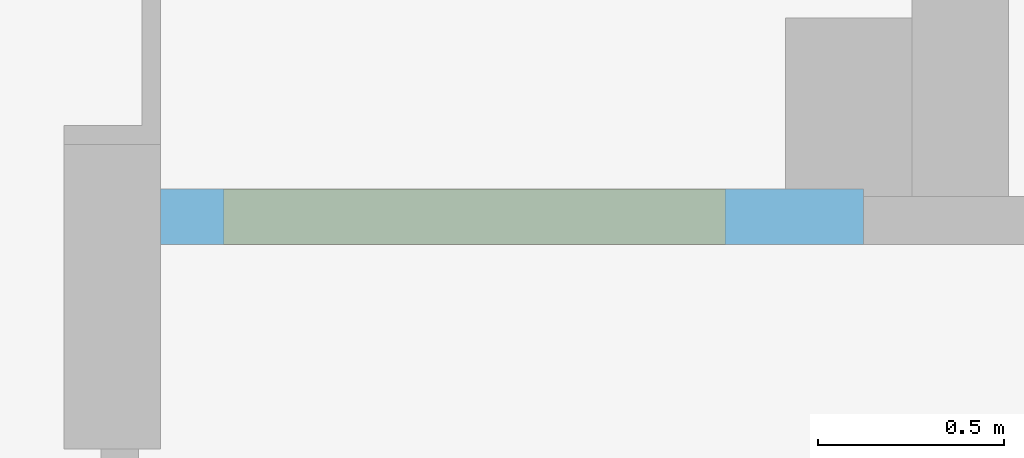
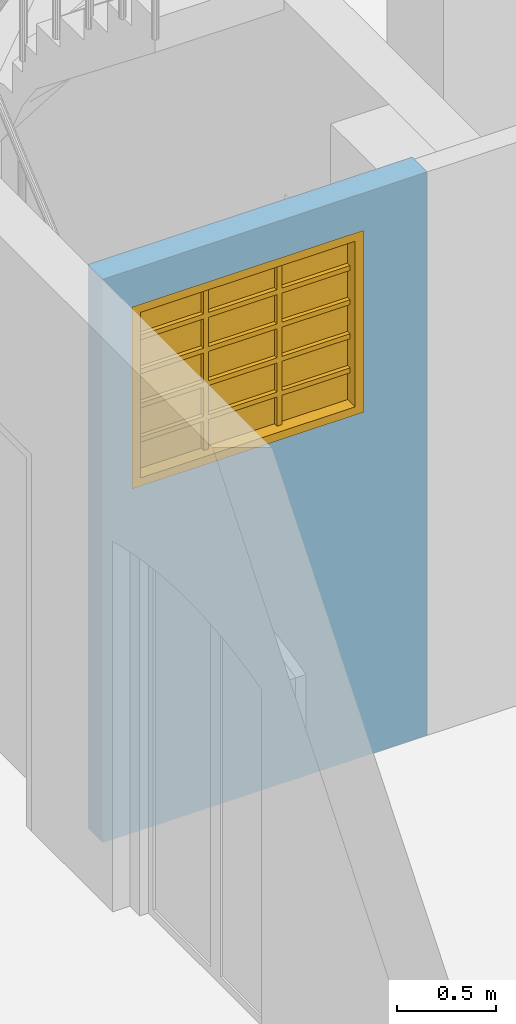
"""IFC4 building model written with IfcOpenShell, lengths in metres."""

from ifc_helpers import new_model, entity, si_unit, converted_unit, derived_unit, frame, frame_2d, origin, origin_with_axes, place, context, subcontext, project, spatial, polyline, rectangle, outline, extrude, closed_shell, open_shell, surface_model, source, transform, mapped, material, layer, layer_set, layer_usage, element, fill, save


model = new_model("IFC4")

# Units and contexts
model_context = context("Model", 3, precision=1e-05, world=origin())
body_context = subcontext(model_context, "Body", "Model", "MODEL_VIEW")
ifc_project = project(units=[si_unit("LENGTHUNIT", "METRE"), si_unit("AREAUNIT", "SQUARE_METRE"), si_unit("VOLUMEUNIT", "CUBIC_METRE"), si_unit("MASSUNIT", "GRAM", prefix="KILO"), converted_unit("PLANEANGLEUNIT", "DEGREE", entity("IfcPlaneAngleMeasure", 0.0174532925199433), si_unit("PLANEANGLEUNIT", "RADIAN"), dimensions=[0, 0, 0, 0, 0, 0, 0]), derived_unit("THERMALTRANSMITTANCEUNIT", [(si_unit("POWERUNIT", "WATT"), 1), (si_unit("THERMODYNAMICTEMPERATUREUNIT", "KELVIN"), -1), (si_unit("LENGTHUNIT", "METRE"), -2)]), derived_unit("VOLUMETRICFLOWRATEUNIT", [(si_unit("LENGTHUNIT", "METRE"), 3), (converted_unit("TIMEUNIT", "hour", entity("IfcTimeMeasure", 3600.0), si_unit("TIMEUNIT", "SECOND"), dimensions=[0, 0, 1, 0, 0, 0, 0]), -1), (si_unit("LENGTHUNIT", "METRE"), -1)])], contexts=[model_context])

# Building, storeys
building_placement = place(None, origin())
building = spatial("IfcBuilding", under=ifc_project, at=building_placement, Name="Bestandsgebäude A - Sporthalle / Wohnhaus (TB 100-499)   ANPASSEN !!!", CompositionType="ELEMENT")
storey_1_placement = place(building_placement, origin())
storey_1 = spatial("IfcBuildingStorey", under=building, at=storey_1_placement, Name="Geb. A Erdgeschoss (TB 200-249)", CompositionType="ELEMENT", Elevation=0.0)
storey_2_placement = place(storey_1_placement, origin())
storey_2 = spatial("IfcBuildingStorey", under=storey_1, at=storey_2_placement, Name="Architektur (TB 200-209)", CompositionType="PARTIAL")

# Wall, opening, window
ifc_material = material(Name="masonry")
ifc_layer = layer(ifc_material, 0.15)
ifc_layer_set = layer_set([ifc_layer])
ifc_layer_usage = layer_usage(ifc_layer_set, "AXIS2", "POSITIVE", 0.0)
wall_placement = place(storey_2_placement, frame((-5.21999999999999, 4.36, 0.0)))
wall = element("IfcWall", 1, at=wall_placement, inside=storey_2, material=ifc_layer_usage, Name="masonry load-bearing", PredefinedType="USERDEFINED", context=body_context, shape_type="SweptSolid", body=[
    extrude(rectangle(XDim=1.89, YDim=0.15, at=frame_2d((0.945, 0.075), x_axis=(1.0, 0.0))), origin_with_axes(), (0.0, 0.0, 1.0), 3.47),
])
opening_placement = place(wall_placement, frame((1.51956840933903, 0.15, 2.12), z_axis=(0.0, -1.0, 0.0), x_axis=(0.0, 0.0, 1.0)))
opening = element("IfcOpeningElement", 2, at=opening_placement, cuts=wall, Name="Window opening", PredefinedType="OPENING", context=body_context, shape_type="SweptSolid", body=[
    extrude(outline(polyline([(1.12, 1.35), (1.12, 0.0), (0.0, 0.0), (0.0, 1.35), (1.12, 1.35)])), origin_with_axes(), (0.0, 0.0, 1.0), 0.15),
])
shared_shape = source(origin_with_axes(), body_context, "Body", "SurfaceModel", [
    surface_model("IfcShellBasedSurfaceModel", [(1.35, 0.0, 1.12), (1.35, 0.0, 0.0), (1.3, 0.0, 0.0), (1.3, 0.0, 1.12), (1.35, 0.15, 0.0), (1.35, 0.15, 1.12), (1.3, 0.15, 1.12), (1.3, 0.15, 0.0)], [closed_shell([[[0, 1, 2, 3]], [[4, 5, 6, 7]], [[1, 0, 5, 4]], [[2, 1, 4, 7]], [[3, 2, 7, 6]], [[0, 3, 6, 5]]], orient=[[False], [False], [False], [False], [False], [False]])]),
    surface_model("IfcShellBasedSurfaceModel", [(0.05, 0.0, 1.12), (0.05, 0.0, 0.0), (0.0, 0.0, 0.0), (0.0, 0.0, 1.12), (0.05, 0.15, 0.0), (0.05, 0.15, 1.12), (0.0, 0.15, 1.12), (0.0, 0.15, 0.0)], [closed_shell([[[0, 1, 2, 3]], [[4, 5, 6, 7]], [[1, 0, 5, 4]], [[2, 1, 4, 7]], [[3, 2, 7, 6]], [[0, 3, 6, 5]]], orient=[[False], [False], [False], [False], [False], [False]])]),
    surface_model("IfcShellBasedSurfaceModel", [(1.3, 0.0, 0.05), (1.3, 0.0, 0.0), (0.05, 0.0, 0.0), (0.05, 0.0, 0.05), (1.3, 0.15, 0.0), (1.3, 0.15, 0.05), (0.05, 0.15, 0.05), (0.05, 0.15, 0.0)], [closed_shell([[[0, 1, 2, 3]], [[4, 5, 6, 7]], [[1, 0, 5, 4]], [[2, 1, 4, 7]], [[3, 2, 7, 6]], [[0, 3, 6, 5]]], orient=[[False], [False], [False], [False], [False], [False]])]),
    surface_model("IfcShellBasedSurfaceModel", [(1.3, 0.0, 1.12), (1.3, 0.0, 1.07), (0.05, 0.0, 1.07), (0.05, 0.0, 1.12), (1.3, 0.15, 1.07), (1.3, 0.15, 1.12), (0.05, 0.15, 1.12), (0.05, 0.15, 1.07)], [closed_shell([[[0, 1, 2, 3]], [[4, 5, 6, 7]], [[1, 0, 5, 4]], [[2, 1, 4, 7]], [[3, 2, 7, 6]], [[0, 3, 6, 5]]], orient=[[False], [False], [False], [False], [False], [False]])]),
    surface_model("IfcShellBasedSurfaceModel", [(0.903333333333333, 0.0499999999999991, 1.07), (0.903333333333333, 0.0499999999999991, 0.05), (0.873333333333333, 0.0499999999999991, 0.05), (0.873333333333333, 0.0499999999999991, 1.07), (0.903333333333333, 0.1, 0.05), (0.903333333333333, 0.1, 1.07), (0.873333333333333, 0.1, 1.07), (0.873333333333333, 0.1, 0.05)], [closed_shell([[[0, 1, 2, 3]], [[4, 5, 6, 7]], [[1, 0, 5, 4]], [[2, 1, 4, 7]], [[3, 2, 7, 6]], [[0, 3, 6, 5]]], orient=[[False], [False], [False], [False], [False], [False]])]),
    surface_model("IfcShellBasedSurfaceModel", [(0.476666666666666, 0.0499999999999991, 1.07), (0.476666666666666, 0.0499999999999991, 0.05), (0.446666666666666, 0.0499999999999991, 0.05), (0.446666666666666, 0.0499999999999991, 1.07), (0.476666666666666, 0.1, 0.05), (0.476666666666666, 0.1, 1.07), (0.446666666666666, 0.1, 1.07), (0.446666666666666, 0.1, 0.05)], [closed_shell([[[0, 1, 2, 3]], [[4, 5, 6, 7]], [[1, 0, 5, 4]], [[2, 1, 4, 7]], [[3, 2, 7, 6]], [[0, 3, 6, 5]]], orient=[[False], [False], [False], [False], [False], [False]])]),
    surface_model("IfcShellBasedSurfaceModel", [(1.3, 0.0499999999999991, 0.26), (1.3, 0.0499999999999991, 0.23), (0.903333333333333, 0.0499999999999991, 0.23), (0.903333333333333, 0.0499999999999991, 0.26), (1.3, 0.1, 0.23), (1.3, 0.1, 0.26), (0.903333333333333, 0.1, 0.26), (0.903333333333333, 0.1, 0.23)], [closed_shell([[[0, 1, 2, 3]], [[4, 5, 6, 7]], [[1, 0, 5, 4]], [[2, 1, 4, 7]], [[3, 2, 7, 6]], [[0, 3, 6, 5]]], orient=[[False], [False], [False], [False], [False], [False]])]),
    surface_model("IfcShellBasedSurfaceModel", [(1.3, 0.0499999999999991, 0.47), (1.3, 0.0499999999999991, 0.44), (0.903333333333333, 0.0499999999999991, 0.44), (0.903333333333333, 0.0499999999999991, 0.47), (1.3, 0.1, 0.44), (1.3, 0.1, 0.47), (0.903333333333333, 0.1, 0.47), (0.903333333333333, 0.1, 0.44)], [closed_shell([[[0, 1, 2, 3]], [[4, 5, 6, 7]], [[1, 0, 5, 4]], [[2, 1, 4, 7]], [[3, 2, 7, 6]], [[0, 3, 6, 5]]], orient=[[False], [False], [False], [False], [False], [False]])]),
    surface_model("IfcShellBasedSurfaceModel", [(1.3, 0.0499999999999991, 0.68), (1.3, 0.0499999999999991, 0.65), (0.903333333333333, 0.0499999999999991, 0.65), (0.903333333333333, 0.0499999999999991, 0.68), (1.3, 0.1, 0.65), (1.3, 0.1, 0.68), (0.903333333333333, 0.1, 0.68), (0.903333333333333, 0.1, 0.65)], [closed_shell([[[0, 1, 2, 3]], [[4, 5, 6, 7]], [[1, 0, 5, 4]], [[2, 1, 4, 7]], [[3, 2, 7, 6]], [[0, 3, 6, 5]]], orient=[[False], [False], [False], [False], [False], [False]])]),
    surface_model("IfcShellBasedSurfaceModel", [(1.3, 0.0499999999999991, 0.89), (1.3, 0.0499999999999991, 0.86), (0.903333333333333, 0.0499999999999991, 0.86), (0.903333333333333, 0.0499999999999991, 0.89), (1.3, 0.1, 0.86), (1.3, 0.1, 0.89), (0.903333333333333, 0.1, 0.89), (0.903333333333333, 0.1, 0.86)], [closed_shell([[[0, 1, 2, 3]], [[4, 5, 6, 7]], [[1, 0, 5, 4]], [[2, 1, 4, 7]], [[3, 2, 7, 6]], [[0, 3, 6, 5]]], orient=[[False], [False], [False], [False], [False], [False]])]),
    surface_model("IfcShellBasedSurfaceModel", [(0.873333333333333, 0.0499999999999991, 0.26), (0.873333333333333, 0.0499999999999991, 0.23), (0.476666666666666, 0.0499999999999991, 0.23), (0.476666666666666, 0.0499999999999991, 0.26), (0.873333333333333, 0.1, 0.23), (0.873333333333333, 0.1, 0.26), (0.476666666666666, 0.1, 0.26), (0.476666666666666, 0.1, 0.23)], [closed_shell([[[0, 1, 2, 3]], [[4, 5, 6, 7]], [[1, 0, 5, 4]], [[2, 1, 4, 7]], [[3, 2, 7, 6]], [[0, 3, 6, 5]]], orient=[[False], [False], [False], [False], [False], [False]])]),
    surface_model("IfcShellBasedSurfaceModel", [(0.873333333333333, 0.0499999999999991, 0.47), (0.873333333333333, 0.0499999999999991, 0.44), (0.476666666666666, 0.0499999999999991, 0.44), (0.476666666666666, 0.0499999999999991, 0.47), (0.873333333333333, 0.1, 0.44), (0.873333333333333, 0.1, 0.47), (0.476666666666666, 0.1, 0.47), (0.476666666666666, 0.1, 0.44)], [closed_shell([[[0, 1, 2, 3]], [[4, 5, 6, 7]], [[1, 0, 5, 4]], [[2, 1, 4, 7]], [[3, 2, 7, 6]], [[0, 3, 6, 5]]], orient=[[False], [False], [False], [False], [False], [False]])]),
    surface_model("IfcShellBasedSurfaceModel", [(0.873333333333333, 0.0499999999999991, 0.68), (0.873333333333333, 0.0499999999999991, 0.65), (0.476666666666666, 0.0499999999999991, 0.65), (0.476666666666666, 0.0499999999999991, 0.68), (0.873333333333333, 0.1, 0.65), (0.873333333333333, 0.1, 0.68), (0.476666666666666, 0.1, 0.68), (0.476666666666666, 0.1, 0.65)], [closed_shell([[[0, 1, 2, 3]], [[4, 5, 6, 7]], [[1, 0, 5, 4]], [[2, 1, 4, 7]], [[3, 2, 7, 6]], [[0, 3, 6, 5]]], orient=[[False], [False], [False], [False], [False], [False]])]),
    surface_model("IfcShellBasedSurfaceModel", [(0.873333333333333, 0.0499999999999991, 0.89), (0.873333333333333, 0.0499999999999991, 0.86), (0.476666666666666, 0.0499999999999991, 0.86), (0.476666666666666, 0.0499999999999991, 0.89), (0.873333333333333, 0.1, 0.86), (0.873333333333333, 0.1, 0.89), (0.476666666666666, 0.1, 0.89), (0.476666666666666, 0.1, 0.86)], [closed_shell([[[0, 1, 2, 3]], [[4, 5, 6, 7]], [[1, 0, 5, 4]], [[2, 1, 4, 7]], [[3, 2, 7, 6]], [[0, 3, 6, 5]]], orient=[[False], [False], [False], [False], [False], [False]])]),
    surface_model("IfcShellBasedSurfaceModel", [(0.446666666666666, 0.0499999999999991, 0.26), (0.446666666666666, 0.0499999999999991, 0.23), (0.05, 0.0499999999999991, 0.23), (0.05, 0.0499999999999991, 0.26), (0.446666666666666, 0.1, 0.23), (0.446666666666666, 0.1, 0.26), (0.05, 0.1, 0.26), (0.05, 0.1, 0.23)], [closed_shell([[[0, 1, 2, 3]], [[4, 5, 6, 7]], [[1, 0, 5, 4]], [[2, 1, 4, 7]], [[3, 2, 7, 6]], [[0, 3, 6, 5]]], orient=[[False], [False], [False], [False], [False], [False]])]),
    surface_model("IfcShellBasedSurfaceModel", [(0.446666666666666, 0.0499999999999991, 0.47), (0.446666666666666, 0.0499999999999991, 0.44), (0.05, 0.0499999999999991, 0.44), (0.05, 0.0499999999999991, 0.47), (0.446666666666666, 0.1, 0.44), (0.446666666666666, 0.1, 0.47), (0.05, 0.1, 0.47), (0.05, 0.1, 0.44)], [closed_shell([[[0, 1, 2, 3]], [[4, 5, 6, 7]], [[1, 0, 5, 4]], [[2, 1, 4, 7]], [[3, 2, 7, 6]], [[0, 3, 6, 5]]], orient=[[False], [False], [False], [False], [False], [False]])]),
    surface_model("IfcShellBasedSurfaceModel", [(0.446666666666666, 0.0499999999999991, 0.68), (0.446666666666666, 0.0499999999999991, 0.65), (0.05, 0.0499999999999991, 0.65), (0.05, 0.0499999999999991, 0.68), (0.446666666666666, 0.1, 0.65), (0.446666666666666, 0.1, 0.68), (0.05, 0.1, 0.68), (0.05, 0.1, 0.65)], [closed_shell([[[0, 1, 2, 3]], [[4, 5, 6, 7]], [[1, 0, 5, 4]], [[2, 1, 4, 7]], [[3, 2, 7, 6]], [[0, 3, 6, 5]]], orient=[[False], [False], [False], [False], [False], [False]])]),
    surface_model("IfcShellBasedSurfaceModel", [(0.446666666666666, 0.0499999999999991, 0.89), (0.446666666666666, 0.0499999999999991, 0.86), (0.05, 0.0499999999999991, 0.86), (0.05, 0.0499999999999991, 0.89), (0.446666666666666, 0.1, 0.86), (0.446666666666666, 0.1, 0.89), (0.05, 0.1, 0.89), (0.05, 0.1, 0.86)], [closed_shell([[[0, 1, 2, 3]], [[4, 5, 6, 7]], [[1, 0, 5, 4]], [[2, 1, 4, 7]], [[3, 2, 7, 6]], [[0, 3, 6, 5]]], orient=[[False], [False], [False], [False], [False], [False]])]),
    surface_model("IfcShellBasedSurfaceModel", [(1.3, 0.075, 0.05), (0.903333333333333, 0.075, 0.05), (0.903333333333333, 0.075, 0.23), (1.3, 0.0749999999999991, 0.23)], [open_shell([[[0, 1, 2, 3]]], orient=[[False]])]),
    surface_model("IfcShellBasedSurfaceModel", [(1.3, 0.0749999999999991, 0.26), (0.903333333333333, 0.075, 0.26), (0.903333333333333, 0.075, 0.44), (1.3, 0.0749999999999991, 0.44)], [open_shell([[[0, 1, 2, 3]]], orient=[[False]])]),
    surface_model("IfcShellBasedSurfaceModel", [(1.3, 0.0749999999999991, 0.47), (0.903333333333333, 0.075, 0.47), (0.903333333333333, 0.0749999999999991, 0.65), (1.3, 0.0749999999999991, 0.65)], [open_shell([[[0, 1, 2, 3]]], orient=[[False]])]),
    surface_model("IfcShellBasedSurfaceModel", [(1.3, 0.0749999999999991, 0.68), (0.903333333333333, 0.0749999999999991, 0.68), (0.903333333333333, 0.0749999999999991, 0.86), (1.3, 0.0749999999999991, 0.86)], [open_shell([[[0, 1, 2, 3]]], orient=[[False]])]),
    surface_model("IfcShellBasedSurfaceModel", [(1.3, 0.0749999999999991, 0.89), (0.903333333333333, 0.0749999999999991, 0.89), (0.903333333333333, 0.0749999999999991, 1.07), (1.3, 0.0749999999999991, 1.07)], [open_shell([[[0, 1, 2, 3]]], orient=[[False]])]),
    surface_model("IfcShellBasedSurfaceModel", [(0.873333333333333, 0.075, 0.05), (0.476666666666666, 0.075, 0.05), (0.476666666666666, 0.075, 0.23), (0.873333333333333, 0.075, 0.23)], [open_shell([[[0, 1, 2, 3]]], orient=[[False]])]),
    surface_model("IfcShellBasedSurfaceModel", [(0.873333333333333, 0.075, 0.26), (0.476666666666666, 0.075, 0.26), (0.476666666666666, 0.075, 0.44), (0.873333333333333, 0.075, 0.44)], [open_shell([[[0, 1, 2, 3]]], orient=[[False]])]),
    surface_model("IfcShellBasedSurfaceModel", [(0.873333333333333, 0.075, 0.47), (0.476666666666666, 0.075, 0.47), (0.476666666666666, 0.075, 0.65), (0.873333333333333, 0.0749999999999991, 0.65)], [open_shell([[[0, 1, 2, 3]]], orient=[[False]])]),
    surface_model("IfcShellBasedSurfaceModel", [(0.873333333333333, 0.0749999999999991, 0.68), (0.476666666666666, 0.075, 0.68), (0.476666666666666, 0.075, 0.86), (0.873333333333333, 0.0749999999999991, 0.86)], [open_shell([[[0, 1, 2, 3]]], orient=[[False]])]),
    surface_model("IfcShellBasedSurfaceModel", [(0.873333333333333, 0.0749999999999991, 0.89), (0.476666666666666, 0.075, 0.89), (0.476666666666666, 0.0749999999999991, 1.07), (0.873333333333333, 0.0749999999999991, 1.07)], [open_shell([[[0, 1, 2, 3]]], orient=[[False]])]),
    surface_model("IfcShellBasedSurfaceModel", [(0.446666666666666, 0.075, 0.05), (0.05, 0.075, 0.05), (0.05, 0.075, 0.23), (0.446666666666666, 0.075, 0.23)], [open_shell([[[0, 1, 2, 3]]], orient=[[False]])]),
    surface_model("IfcShellBasedSurfaceModel", [(0.446666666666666, 0.075, 0.26), (0.05, 0.075, 0.26), (0.05, 0.075, 0.44), (0.446666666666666, 0.075, 0.44)], [open_shell([[[0, 1, 2, 3]]], orient=[[False]])]),
    surface_model("IfcShellBasedSurfaceModel", [(0.446666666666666, 0.075, 0.47), (0.05, 0.075, 0.47), (0.05, 0.075, 0.65), (0.446666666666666, 0.075, 0.65)], [open_shell([[[0, 1, 2, 3]]], orient=[[False]])]),
    surface_model("IfcShellBasedSurfaceModel", [(0.446666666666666, 0.075, 0.68), (0.05, 0.075, 0.68), (0.05, 0.075, 0.86), (0.446666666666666, 0.075, 0.86)], [open_shell([[[0, 1, 2, 3]]], orient=[[False]])]),
    surface_model("IfcShellBasedSurfaceModel", [(0.446666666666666, 0.075, 0.89), (0.05, 0.075, 0.89), (0.05, 0.075, 1.07), (0.446666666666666, 0.0749999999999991, 1.07)], [open_shell([[[0, 1, 2, 3]]], orient=[[False]])]),
])
window_placement = place(opening_placement, frame((0.0, 1.35, 0.15), z_axis=(1.0, 0.0, 0.0), x_axis=(0.0, -1.0, 0.0)))
window = element("IfcWindow", 3, at=window_placement, inside=storey_2, Name="Window", OverallHeight=1.12, OverallWidth=1.35, PartitioningType="USERDEFINED", PredefinedType="WINDOW", context=body_context, shape_type="MappedRepresentation", body=[
    mapped(shared_shape, transform((0.0, 0.0, 0.0), x_axis=(1.0, 0.0, 0.0), y_axis=(0.0, 1.0, 0.0), z_axis=(0.0, 0.0, 1.0), scale=1.0)),
])
fill(opening, window)

save(model, "model.ifc")
